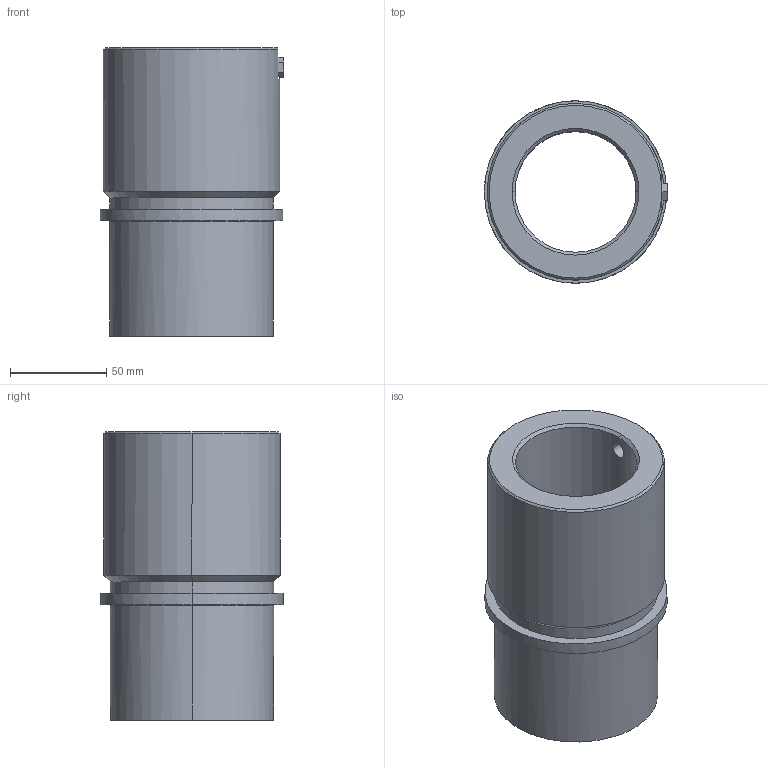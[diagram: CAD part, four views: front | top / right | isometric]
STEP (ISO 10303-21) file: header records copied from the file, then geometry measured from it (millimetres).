
FILE_DESCRIPTION(('CATIA V5 STEP Exchange'),'2;1');
FILE_NAME('C:\Users\Utente\Desktop\IO LAVORO\3D X SITO CF\X SITO\742\742-63.stp','2021-01-23T10:36:02+00:00',('none'),('none'),'CATIA Version 5 Release 20 GA (IN-10)','CATIA V5 STEP AP203','none');
FILE_SCHEMA(('CONFIG_CONTROL_DESIGN'));
Length unit declared in the file: millimetre
Products named in the file (1): 742-63
Assembly tree (1 placements, depth 2):
  742-63
    #58
Bounding box: 95.5 x 95 x 150 mm (x, y, z)
Volume: 464952.8 mm3; surface area: 81152.5 mm2
Topology: 1 solids, 1 shells, 38 faces, 89 edges, 56 vertices
Faces by surface type: plane 14, cylinder 12, cone 8, torus 4
Entity records: 1279 total; most frequent: CARTESIAN_POINT 371, ORIENTED_EDGE 178, DIRECTION 155, EDGE_CURVE 89, AXIS2_PLACEMENT_3D 74, VERTEX_POINT 56, EDGE_LOOP 43, VECTOR 41
